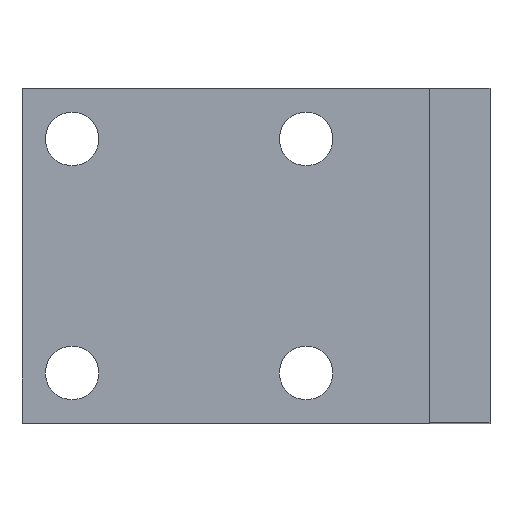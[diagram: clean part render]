
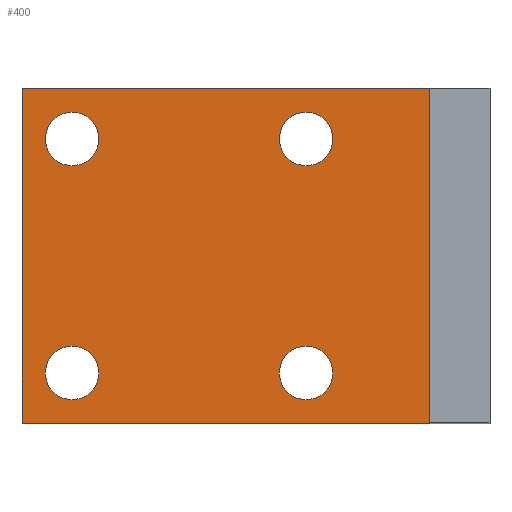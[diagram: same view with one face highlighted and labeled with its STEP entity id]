
A CAD part, top view. The second image highlights one B-rep face of the part: STEP entity #400.
In plain terms, the highlighted planar face has unit normal (0, 0, 1).
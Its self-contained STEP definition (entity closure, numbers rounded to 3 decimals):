
#32=LINE('',#613,#62);
#38=LINE('',#625,#68);
#41=LINE('',#629,#71);
#42=LINE('',#631,#72);
#62=VECTOR('',#497,50.);
#68=VECTOR('',#507,50.);
#71=VECTOR('',#512,61.);
#72=VECTOR('',#515,61.);
#92=PLANE('',#435);
#108=FACE_BOUND('',#164,.T.);
#109=FACE_BOUND('',#165,.T.);
#110=FACE_BOUND('',#166,.T.);
#111=FACE_BOUND('',#167,.T.);
#112=FACE_BOUND('',#168,.T.);
#164=EDGE_LOOP('',(#333));
#165=EDGE_LOOP('',(#334));
#166=EDGE_LOOP('',(#335));
#167=EDGE_LOOP('',(#336));
#168=EDGE_LOOP('',(#337,#338,#339,#340));
#192=CIRCLE('',#418,4.);
#194=CIRCLE('',#421,4.);
#196=CIRCLE('',#424,4.);
#198=CIRCLE('',#427,4.);
#208=VERTEX_POINT('',#578);
#210=VERTEX_POINT('',#583);
#212=VERTEX_POINT('',#588);
#214=VERTEX_POINT('',#593);
#221=VERTEX_POINT('',#611);
#222=VERTEX_POINT('',#612);
#225=VERTEX_POINT('',#623);
#226=VERTEX_POINT('',#624);
#244=EDGE_CURVE('',#208,#208,#192,.T.);
#246=EDGE_CURVE('',#210,#210,#194,.T.);
#248=EDGE_CURVE('',#212,#212,#196,.T.);
#250=EDGE_CURVE('',#214,#214,#198,.T.);
#258=EDGE_CURVE('',#221,#222,#32,.T.);
#264=EDGE_CURVE('',#225,#226,#38,.T.);
#267=EDGE_CURVE('',#226,#222,#41,.T.);
#268=EDGE_CURVE('',#221,#225,#42,.T.);
#333=ORIENTED_EDGE('',*,*,#244,.T.);
#334=ORIENTED_EDGE('',*,*,#246,.T.);
#335=ORIENTED_EDGE('',*,*,#248,.T.);
#336=ORIENTED_EDGE('',*,*,#250,.T.);
#337=ORIENTED_EDGE('',*,*,#264,.F.);
#338=ORIENTED_EDGE('',*,*,#268,.F.);
#339=ORIENTED_EDGE('',*,*,#258,.T.);
#340=ORIENTED_EDGE('',*,*,#267,.F.);
#400=ADVANCED_FACE('',(#108,#109,#110,#111,#112),#92,.T.);
#418=AXIS2_PLACEMENT_3D('',#579,#464,#465);
#421=AXIS2_PLACEMENT_3D('',#584,#470,#471);
#424=AXIS2_PLACEMENT_3D('',#589,#476,#477);
#427=AXIS2_PLACEMENT_3D('',#594,#482,#483);
#435=AXIS2_PLACEMENT_3D('',#632,#516,#517);
#464=DIRECTION('center_axis',(0.,0.,-1.));
#465=DIRECTION('ref_axis',(1.,0.,0.));
#470=DIRECTION('center_axis',(0.,0.,-1.));
#471=DIRECTION('ref_axis',(1.,0.,0.));
#476=DIRECTION('center_axis',(0.,0.,-1.));
#477=DIRECTION('ref_axis',(1.,0.,0.));
#482=DIRECTION('center_axis',(0.,0.,-1.));
#483=DIRECTION('ref_axis',(1.,0.,0.));
#497=DIRECTION('',(0.,1.,0.));
#507=DIRECTION('',(0.,1.,0.));
#512=DIRECTION('',(1.,0.,0.));
#515=DIRECTION('',(-1.,0.,0.));
#516=DIRECTION('center_axis',(0.,0.,1.));
#517=DIRECTION('ref_axis',(1.,0.,0.));
#578=CARTESIAN_POINT('',(39.,17.5,4.5));
#579=CARTESIAN_POINT('Origin',(35.,17.5,4.5));
#583=CARTESIAN_POINT('',(39.,-17.5,4.5));
#584=CARTESIAN_POINT('Origin',(35.,-17.5,4.5));
#588=CARTESIAN_POINT('',(4.,17.5,4.5));
#589=CARTESIAN_POINT('Origin',(0.,17.5,4.5));
#593=CARTESIAN_POINT('',(4.,-17.5,4.5));
#594=CARTESIAN_POINT('Origin',(0.,-17.5,4.5));
#611=CARTESIAN_POINT('',(53.5,-25.,4.5));
#612=CARTESIAN_POINT('',(53.5,25.,4.5));
#613=CARTESIAN_POINT('',(53.5,25.,4.5));
#623=CARTESIAN_POINT('',(-7.5,-25.,4.5));
#624=CARTESIAN_POINT('',(-7.5,25.,4.5));
#625=CARTESIAN_POINT('',(-7.5,25.,4.5));
#629=CARTESIAN_POINT('',(47.5,25.,4.5));
#631=CARTESIAN_POINT('',(-7.5,-25.,4.5));
#632=CARTESIAN_POINT('Origin',(20.,0.,4.5));
